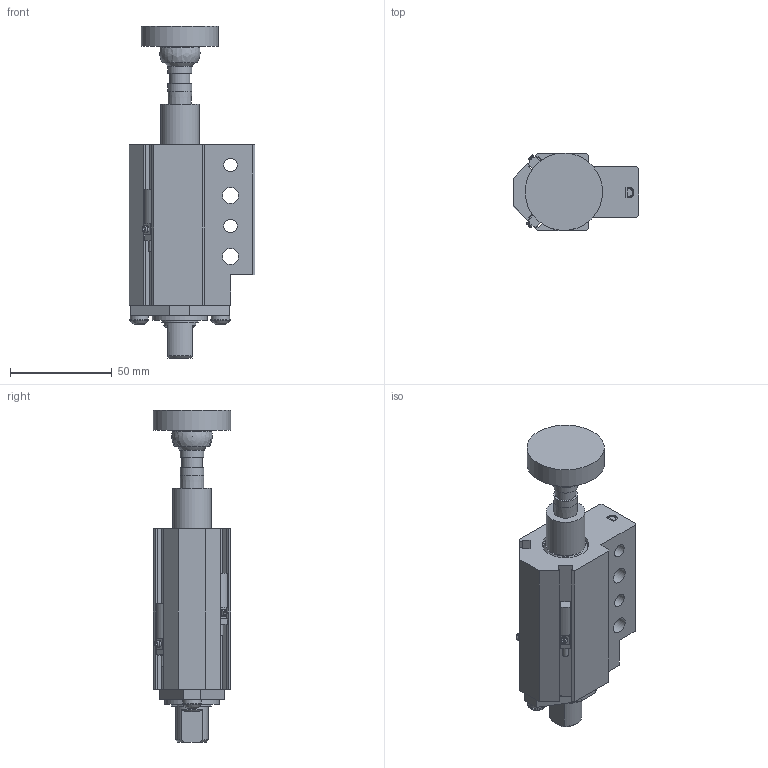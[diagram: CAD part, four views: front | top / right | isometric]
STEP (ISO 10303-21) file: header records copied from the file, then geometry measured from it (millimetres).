
FILE_DESCRIPTION(/* description */ ('MINI PASS THRU GROUND BLOCK'),/* implementation_level */ '2;1');
FILE_NAME(/* name */ 'C:\Vault Workspace\CAD\Welker\Cylinders\GBM\GBMBDL3.stp',/* time_stamp */ '2021-06-25T07:43:50-04:00',/* author */ ('KPL'),/* organization */ (''),/* preprocessor_version */ 'ST-DEVELOPER v18.1',/* originating_system */ 'Autodesk Inventor 2020',/* authorisation */ '');
FILE_SCHEMA (('AUTOMOTIVE_DESIGN { 1 0 10303 214 3 1 1 }'));
Products named in the file (11): GBML01; 91590A126; 96100A152; L3 Sensor 1; M5X0.8-10 BHCS; NL5; GBME01D; GBME02; GBME04; SN-1412; AN-05U2145
Assembly tree (13 placements, depth 2):
  GBML01
    91590A126
    96100A152
    L3 Sensor 1  x2
    M5X0.8-10 BHCS  x2
    NL5  x2
    GBME01D
    GBME02
    GBME04
    SN-1412
    AN-05U2145
Bounding box: 62 x 38.1 x 163.5 mm (x, y, z)
Volume: 142694.1 mm3; surface area: 51439 mm2
Topology: 13 solids, 13 shells, 440 faces, 1207 edges, 808 vertices
Faces by surface type: plane 307, cylinder 97, cone 18, bspline 10, torus 4, sphere 4
Full cylindrical faces by diameter (mm): 1.194 x2, 2.9 x2, 4.134 x2, 5 x2, 5.4 x2, 5.5 x2, 6.647 x3, 8 x2, 9 x2, 9.5 x2, 10 x1, 11.76 x2, 14.935 x1, 15.875 x3, 16.383 x1, 19.05 x1, 19.177 x1, 22.225 x2, 22.784 x1, 24.613 x1, 25.654 x1, 25.705 x1, 26.987 x1, 28.591 x1, 28.667 x1, 38.1 x1
Entity records: 10130 total; most frequent: CARTESIAN_POINT 1860, DIRECTION 1645, ORIENTED_EDGE 1594, EDGE_CURVE 797, AXIS2_PLACEMENT_3D 568, VERTEX_POINT 545, LINE 509, VECTOR 509
